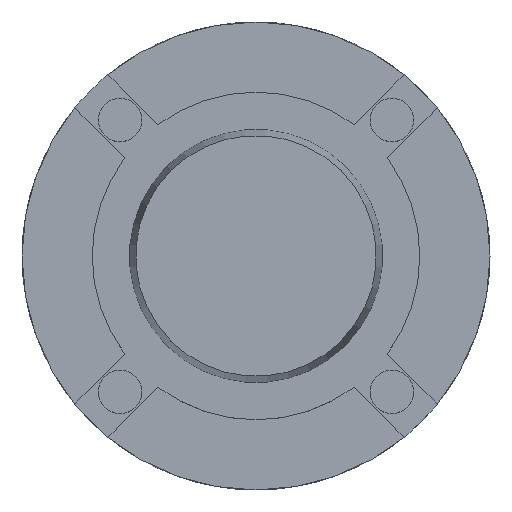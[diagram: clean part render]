
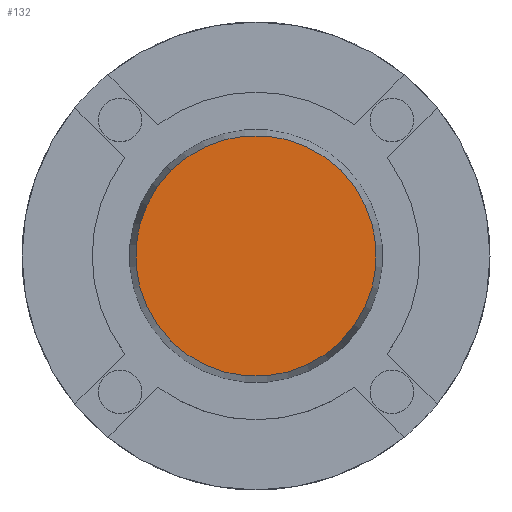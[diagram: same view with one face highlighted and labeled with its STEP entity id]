
A CAD part, top view. The second image highlights one B-rep face of the part: STEP entity #132.
In plain terms, the highlighted planar face has unit normal (0, 0, 1) as drawn and (1, 0, 0) by its records, which use the part's own axes.
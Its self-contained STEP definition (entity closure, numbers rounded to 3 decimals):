
#132=ADVANCED_FACE('',(#167),#684,.T.);
#167=FACE_OUTER_BOUND('',#207,.T.);
#207=EDGE_LOOP('',(#308,#309));
#308=ORIENTED_EDGE('',*,*,#449,.F.);
#309=ORIENTED_EDGE('',*,*,#452,.F.);
#449=EDGE_CURVE('',#645,#647,#500,.T.);
#452=EDGE_CURVE('',#647,#645,#502,.T.);
#500=TRIMMED_CURVE($,#540,(#1302),(#1303),.T.,.CARTESIAN.);
#502=TRIMMED_CURVE($,#542,(#1310),(#1311),.T.,.CARTESIAN.);
#540=CIRCLE('',#925,36.);
#542=CIRCLE('',#927,36.);
#645=VERTEX_POINT('',#1164);
#647=VERTEX_POINT('',#1166);
#684=PLANE('',#885);
#885=AXIS2_PLACEMENT_3D('',#1093,#964,$);
#925=AXIS2_PLACEMENT_3D($,#1301,#1022,#1023);
#927=AXIS2_PLACEMENT_3D($,#1309,#1026,#1027);
#964=DIRECTION('',(1.,0.,0.));
#1022=DIRECTION('',(-1.,0.,0.));
#1023=DIRECTION('',(0.,0.,1.));
#1026=DIRECTION('',(-1.,0.,0.));
#1027=DIRECTION('',(0.,0.,-1.));
#1093=CARTESIAN_POINT('',(16.5,-43.26,-43.26));
#1164=CARTESIAN_POINT('',(16.5,0.,36.));
#1166=CARTESIAN_POINT('',(16.5,0.,-36.));
#1301=CARTESIAN_POINT('',(16.5,0.,0.));
#1302=CARTESIAN_POINT('',(16.5,0.,36.));
#1303=CARTESIAN_POINT('',(16.5,0.,-36.));
#1309=CARTESIAN_POINT('',(16.5,0.,0.));
#1310=CARTESIAN_POINT('',(16.5,0.,-36.));
#1311=CARTESIAN_POINT('',(16.5,0.,36.));
